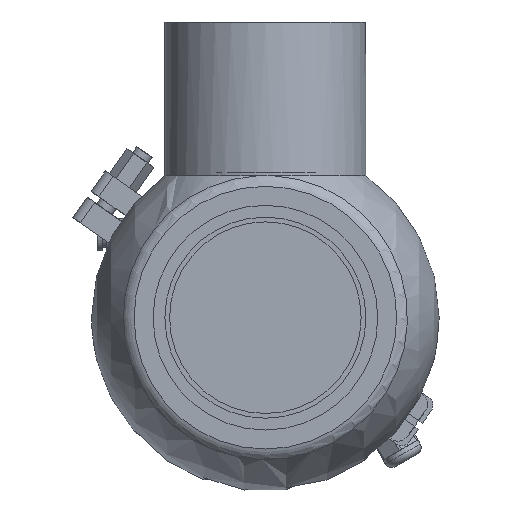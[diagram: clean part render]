
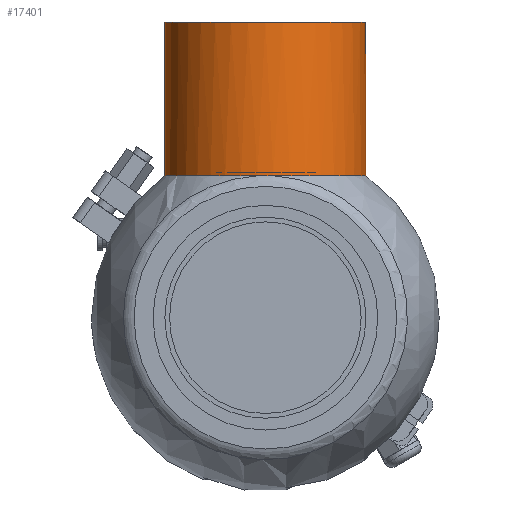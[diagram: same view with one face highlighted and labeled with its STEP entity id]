
A CAD part, front view. The second image highlights one B-rep face of the part: STEP entity #17401.
In plain terms, the highlighted cylindrical face has radius 42.5 mm (diameter 85 mm), a full revolution.
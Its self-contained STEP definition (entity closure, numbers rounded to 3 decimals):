
#201 = CARTESIAN_POINT ( 'NONE',  ( 59.967, 42.453, -2. ) ) ;
#268 = CIRCLE ( 'NONE', #58249, 42.5 ) ;
#343 = FACE_OUTER_BOUND ( 'NONE', #20858, .T. ) ;
#354 = CARTESIAN_POINT ( 'NONE',  ( 59.967, 42.453, 2. ) ) ;
#1090 = EDGE_CURVE ( 'NONE', #2239, #32529, #2668, .T. ) ;
#2239 = VERTEX_POINT ( 'NONE', #201 ) ;
#2512 = ORIENTED_EDGE ( 'NONE', *, *, #1090, .T. ) ;
#2668 = B_SPLINE_CURVE_WITH_KNOTS ( 'NONE', 3,
 ( #22859, #41688, #42587, #60761, #47471, #354 ),
 .UNSPECIFIED., .F., .F.,
 ( 4, 2, 4 ),
 ( 0.024, 0.026, 0.028 ),
 .UNSPECIFIED. ) ;
#2691 = CIRCLE ( 'NONE', #9635, 42.5 ) ;
#4648 = CARTESIAN_POINT ( 'NONE',  ( 0., 0., 0. ) ) ;
#5016 = CARTESIAN_POINT ( 'NONE',  ( 59.967, -42.367, -3.354 ) ) ;
#5239 = EDGE_CURVE ( 'NONE', #46940, #43189, #52430, .T. ) ;
#9381 = CARTESIAN_POINT ( 'NONE',  ( 59.965, -42.5, -0.553 ) ) ;
#9635 = AXIS2_PLACEMENT_3D ( 'NONE', #47303, #10084, #19559 ) ;
#9686 = CARTESIAN_POINT ( 'NONE',  ( 59.967, -42.412, -2.797 ) ) ;
#10084 = DIRECTION ( 'NONE',  ( 1., 0., 0. ) ) ;
#13953 = FACE_OUTER_BOUND ( 'NONE', #59696, .T. ) ;
#14264 = DIRECTION ( 'NONE',  ( -1., 0., 0. ) ) ;
#14326 = CARTESIAN_POINT ( 'NONE',  ( 59.966, -42.445, -2.238 ) ) ;
#17401 = ADVANCED_FACE ( 'NONE', ( #13953, #343 ), #28058, .T. ) ;
#19559 = DIRECTION ( 'NONE',  ( 0., 0., 1. ) ) ;
#20451 = CIRCLE ( 'NONE', #36154, 42.5 ) ;
#20858 = EDGE_LOOP ( 'NONE', ( #38198 ) ) ;
#21125 = CARTESIAN_POINT ( 'NONE',  ( 59.967, -42.367, 3.354 ) ) ;
#22455 = VERTEX_POINT ( 'NONE', #27377 ) ;
#22793 = DIRECTION ( 'NONE',  ( -1., 0., 0. ) ) ;
#22798 = DIRECTION ( 'NONE',  ( 0., 0., 1. ) ) ;
#22859 = CARTESIAN_POINT ( 'NONE',  ( 59.967, 42.453, -2. ) ) ;
#27377 = CARTESIAN_POINT ( 'NONE',  ( 125., 0., 42.5 ) ) ;
#27711 = CARTESIAN_POINT ( 'NONE',  ( 125., 0., 0. ) ) ;
#28058 = CYLINDRICAL_SURFACE ( 'NONE', #58457, 42.5 ) ;
#32529 = VERTEX_POINT ( 'NONE', #57141 ) ;
#34468 = ORIENTED_EDGE ( 'NONE', *, *, #5239, .T. ) ;
#35385 = ORIENTED_EDGE ( 'NONE', *, *, #56462, .T. ) ;
#36154 = AXIS2_PLACEMENT_3D ( 'NONE', #45885, #55104, #22798 ) ;
#37612 = DIRECTION ( 'NONE',  ( 0., 0., 1. ) ) ;
#38198 = ORIENTED_EDGE ( 'NONE', *, *, #50120, .T. ) ;
#40808 = ORIENTED_EDGE ( 'NONE', *, *, #45968, .T. ) ;
#41688 = CARTESIAN_POINT ( 'NONE',  ( 59.989, 42.484, -1.338 ) ) ;
#42327 = CARTESIAN_POINT ( 'NONE',  ( 59.965, -42.489, -1.116 ) ) ;
#42587 = CARTESIAN_POINT ( 'NONE',  ( 60., 42.5, -0.672 ) ) ;
#43189 = VERTEX_POINT ( 'NONE', #55298 ) ;
#45885 = CARTESIAN_POINT ( 'NONE',  ( 59.967, 0., 0. ) ) ;
#45968 = EDGE_CURVE ( 'NONE', #32529, #46940, #20451, .T. ) ;
#46940 = VERTEX_POINT ( 'NONE', #21125 ) ;
#47303 = CARTESIAN_POINT ( 'NONE',  ( 59.967, 0., 0. ) ) ;
#47471 = CARTESIAN_POINT ( 'NONE',  ( 59.989, 42.484, 1.336 ) ) ;
#50120 = EDGE_CURVE ( 'NONE', #22455, #22455, #268, .T. ) ;
#51534 = CARTESIAN_POINT ( 'NONE',  ( 59.965, -42.5, 1.129 ) ) ;
#52368 = DIRECTION ( 'NONE',  ( 0., 0., 1. ) ) ;
#52430 = B_SPLINE_CURVE_WITH_KNOTS ( 'NONE', 3,
 ( #56457, #60817, #51534, #9381, #42327, #14326, #9686, #5016 ),
 .UNSPECIFIED., .F., .F.,
 ( 4, 2, 2, 4 ),
 ( 0.025, 0.028, 0.03, 0.032 ),
 .UNSPECIFIED. ) ;
#55104 = DIRECTION ( 'NONE',  ( 1., 0., 0. ) ) ;
#55298 = CARTESIAN_POINT ( 'NONE',  ( 59.967, -42.367, -3.354 ) ) ;
#56457 = CARTESIAN_POINT ( 'NONE',  ( 59.967, -42.367, 3.354 ) ) ;
#56462 = EDGE_CURVE ( 'NONE', #43189, #2239, #2691, .T. ) ;
#57141 = CARTESIAN_POINT ( 'NONE',  ( 59.967, 42.453, 2. ) ) ;
#58249 = AXIS2_PLACEMENT_3D ( 'NONE', #27711, #22793, #37612 ) ;
#58457 = AXIS2_PLACEMENT_3D ( 'NONE', #4648, #14264, #52368 ) ;
#59696 = EDGE_LOOP ( 'NONE', ( #40808, #34468, #35385, #2512 ) ) ;
#60761 = CARTESIAN_POINT ( 'NONE',  ( 60., 42.5, 0.666 ) ) ;
#60817 = CARTESIAN_POINT ( 'NONE',  ( 59.967, -42.455, 2.244 ) ) ;
